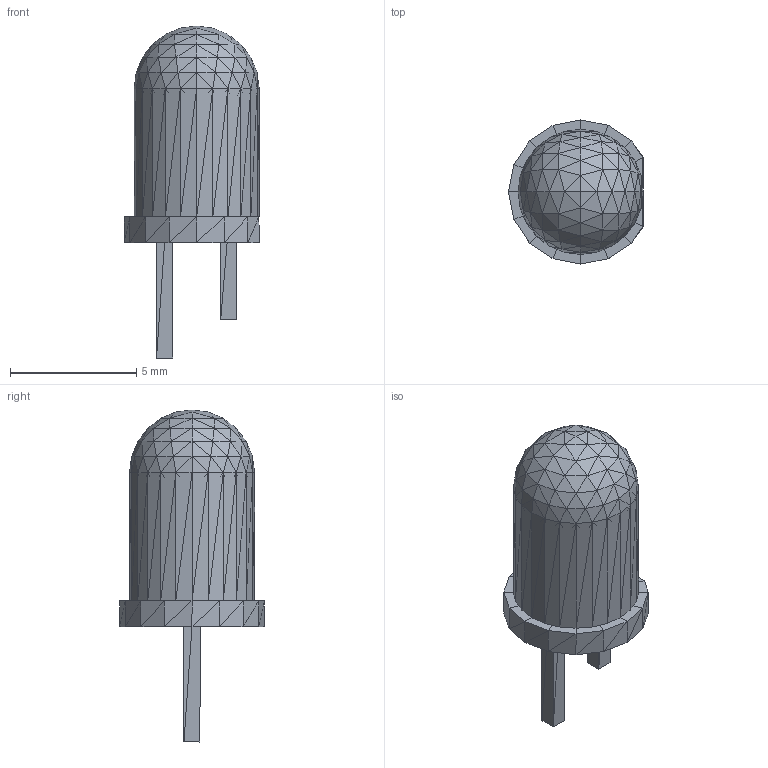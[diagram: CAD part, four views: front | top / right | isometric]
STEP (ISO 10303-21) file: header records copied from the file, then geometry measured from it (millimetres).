
FILE_DESCRIPTION(('HOOPS Exchange Step'),'2;1');
FILE_NAME('***.stp');
FILE_SCHEMA( ('AP242_MANAGED_MODEL_BASED_3D_ENGINEERING_MIM_LF {1 0 10303 442 1 1 4 }') );
Length unit declared in the file: inch
Products named in the file (7): LEDYLW_2; LEDYLW_3; LEDYLW_4; LEDYLW_5; LEDYLW_6; LEDYLW_7; LEDYLW
Assembly tree (6 placements, depth 2):
  LEDYLW
    LEDYLW_2
    LEDYLW_3
    LEDYLW_4
    LEDYLW_5
    LEDYLW_6
    LEDYLW_7
Bounding box: 5.35 x 5.72 x 13.14 mm (x, y, z)
Volume: 197.6 mm3; surface area: 323 mm2
Topology: 6 solids, 6 shells, 760 faces, 1140 edges, 392 vertices
Faces by surface type: plane 760
Entity records: 15147 total; most frequent: DIRECTION 2688, CARTESIAN_POINT 2306, ORIENTED_EDGE 2280, VECTOR 1140, LINE 1140, EDGE_CURVE 1140, AXIS2_PLACEMENT_3D 774, PLANE 760
